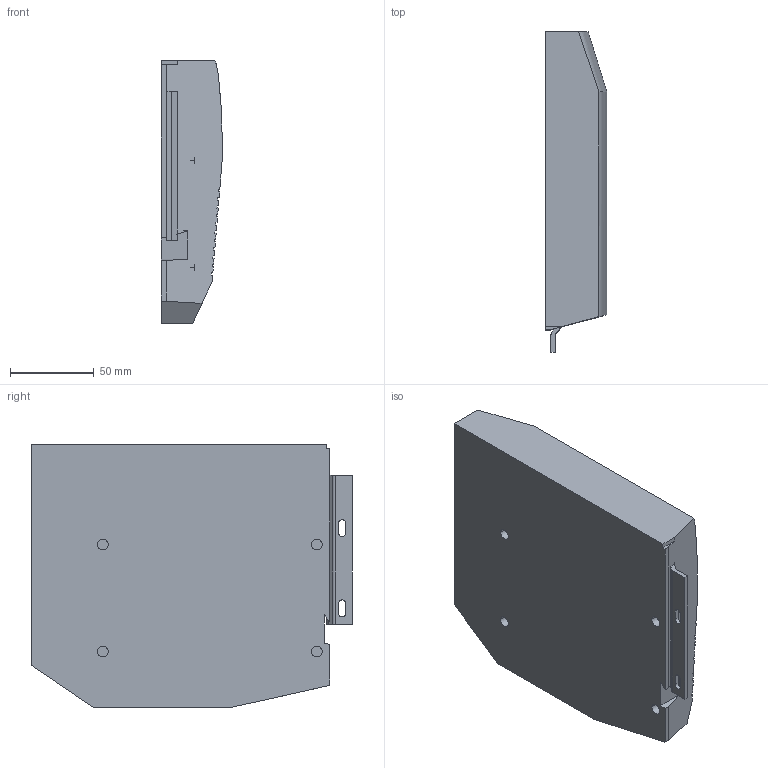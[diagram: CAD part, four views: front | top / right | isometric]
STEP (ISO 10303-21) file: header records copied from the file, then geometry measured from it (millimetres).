
FILE_DESCRIPTION (( 'STEP AP203' ), '1' );
FILE_NAME ('Kinvaro_T-75_links_D2762514325~0.step', '2012-05-04T06:54:27', ( 'admin' ), ( 'Hewlett-Packard Company' ), 'SwSTEP 2.0', 'SolidWorks 2011', '' );
FILE_SCHEMA (( 'CONFIG_CONTROL_DESIGN' ));
Length unit declared in the file: millimetre
Products named in the file (1): Kinvaro_T-75_links_D2762514325~0
Bounding box: 36.77 x 191.7 x 157.62 mm (x, y, z)
Volume: 853469.3 mm3; surface area: 78350.3 mm2
Topology: 1 solids, 1 shells, 118 faces, 333 edges, 221 vertices
Faces by surface type: plane 100, cylinder 16, bspline 2
Entity records: 4071 total; most frequent: CARTESIAN_POINT 928, ORIENTED_EDGE 666, DIRECTION 586, EDGE_CURVE 333, VECTOR 294, LINE 294, VERTEX_POINT 221, AXIS2_PLACEMENT_3D 146
